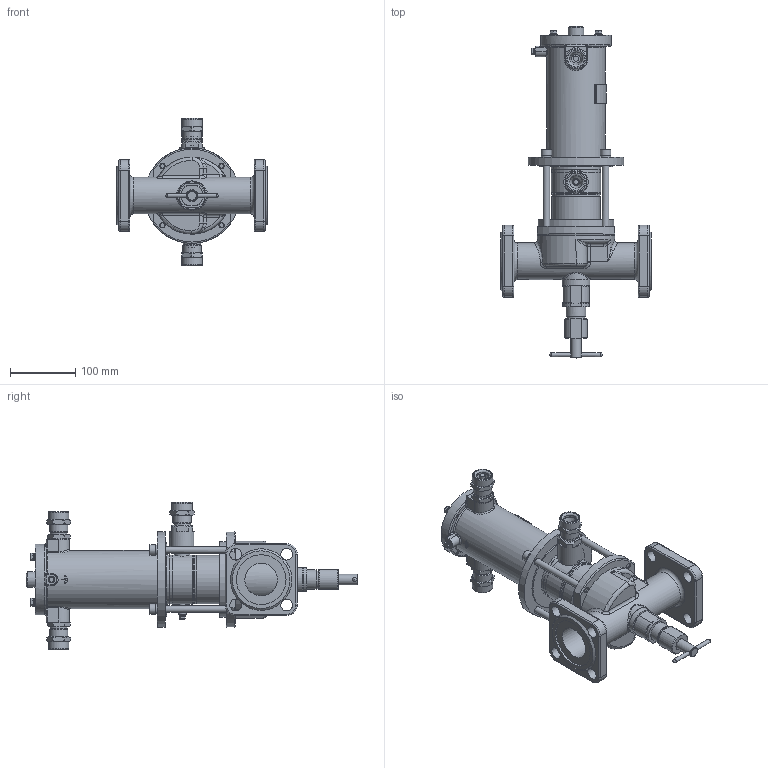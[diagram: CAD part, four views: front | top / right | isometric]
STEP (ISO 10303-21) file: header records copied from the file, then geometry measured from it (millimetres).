
FILE_DESCRIPTION(('STEP AP203'), '1');
FILE_NAME('ÑÅÍÑ DN50PN25-Â-ÄÏ1-ÑÂ.stp', '2018-09-19T08:50:02', ('Îðëîâ Å.Â.'), ('ÎÎÎ ÍÏÏ Ñåíñîð'), 'ASCON STEP Converter 1.3', 'Kompas 3D', '');
FILE_SCHEMA(('CONFIG_CONTROL_DESIGN','SUPPORT_RESOURCE_SCHEMA'));
Length unit declared in the file: millimetre
Products named in the file (1): 70
Bounding box: 230 x 507.66 x 225 mm (x, y, z)
Volume: 1735899.5 mm3; surface area: 504102.5 mm2
Topology: 2 solids, 26 shells, 2174 faces, 5661 edges, 3655 vertices
Faces by surface type: cylinder 1085, plane 809, cone 160, torus 53, bspline 47, extrusion 16, sphere 4
Full cylindrical faces by diameter (mm): 2.459 x1, 3.5 x2, 4.134 x6, 4.917 x4, 5 x2, 5.3 x1, 6 x10, 6.5 x4, 8 x10, 8.2 x1, 8.376 x4, 8.5 x1, 10 x6, 11 x5, 12 x6, 13 x4, 16 x6, 16.004 x2, 17 x2, 17.5 x1, 18 x9, 20 x5, 20.9 x1, 22 x2, 22.376 x2, 23 x2, 23.5 x3, 24 x4, 24.5 x2, 25 x2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
Entity records: 84490 total; most frequent: CARTESIAN_POINT 29982, DIRECTION 11817, ORIENTED_EDGE 11262, EDGE_CURVE 5631, AXIS2_PLACEMENT_3D 4570, VERTEX_POINT 3655, VECTOR 2677, LINE 2661
